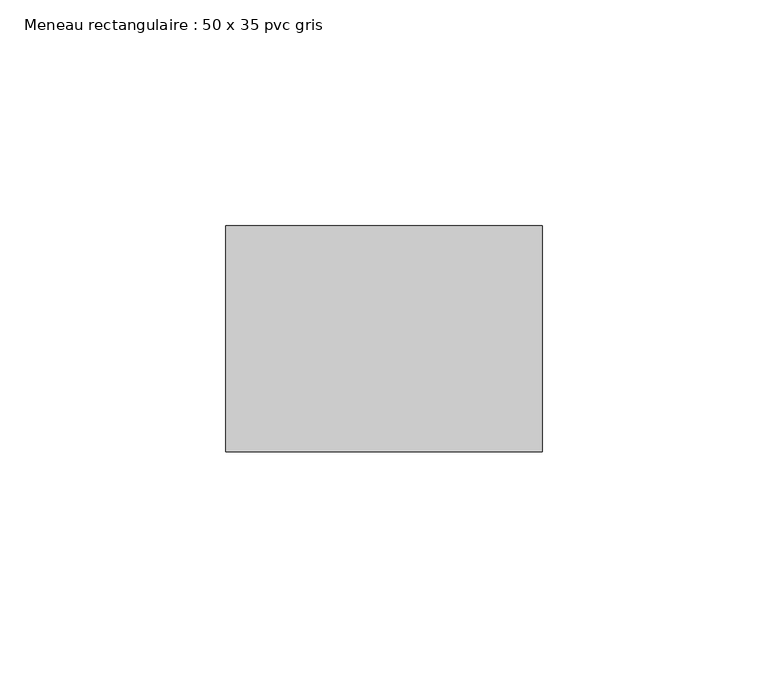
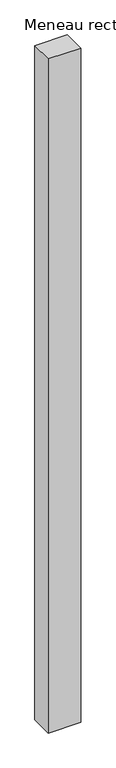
"""IFC4 building model written with IfcOpenShell, lengths in millimetres: member geometry, Meneau rectangulaire : 50 x 35 pvc gris."""

from ifc_helpers import new_model, si_unit, frame, origin, place, context, project, spatial, polyline, outline, extrude, source, transform, mapped, element, save


def meneau_rectangulaire_50_x_35_pvc_gris_47f54f0c(model_context):
    return source(origin(), model_context, "Body", "SweptSolid", [
        extrude(outline(polyline([(35.0, 0.0), (35.0, -50.0), (-35.0, -50.0), (-35.0, 0.0), (35.0, 0.0)])), frame((0.0, 0.0, -1541.2872498), z_axis=(0.0, 0.0, 1.0), x_axis=(1.0, 0.0, 0.0)), (0.0, 0.0, 1.0), 1541.2872498),
    ])


if __name__ == "__main__":
    model = new_model("IFC4")
    model_context = context("Model", 3, world=origin())
    ifc_project = project(units=[si_unit("LENGTHUNIT", "METRE", prefix="MILLI")], contexts=[model_context])
    site = spatial("IfcSite", under=ifc_project)
    building = spatial("IfcBuilding", under=site)
    placement = place(None, origin())
    meneau_rectangulaire_50_x_35_pvc_gris_shape = meneau_rectangulaire_50_x_35_pvc_gris_47f54f0c(model_context)
    element("IfcMember", 1, ObjectType="Meneau rectangulaire : 50 x 35 pvc gris", at=placement, inside=building, context=model_context, shape_type="MappedRepresentation", body=[
        mapped(meneau_rectangulaire_50_x_35_pvc_gris_shape, transform((0.0, 0.0, 0.0), x_axis=(1.0, 0.0, 0.0), y_axis=(0.0, 1.0, 0.0), z_axis=(0.0, 0.0, 1.0))),
    ])
    save(model, "model.ifc")
